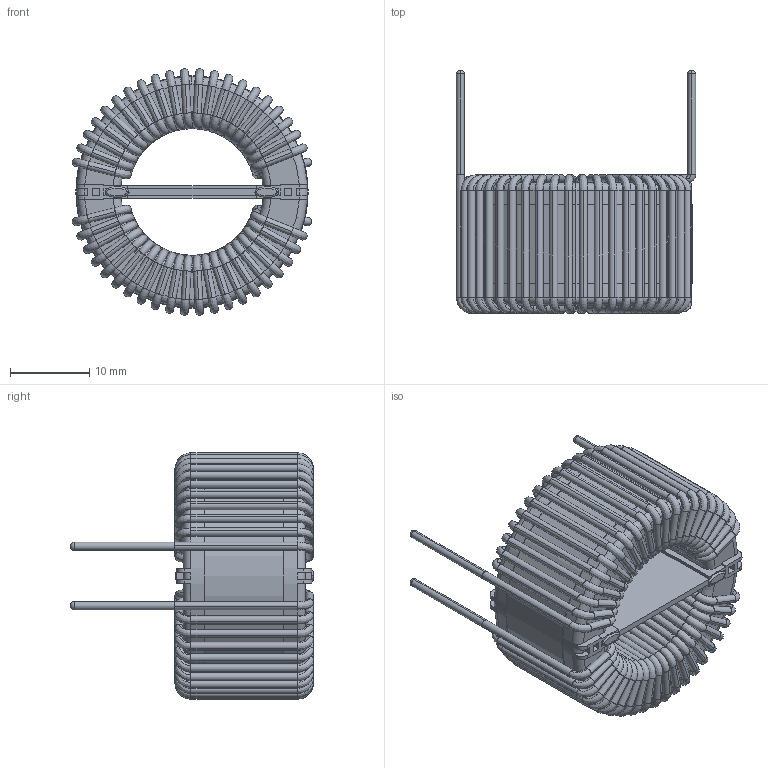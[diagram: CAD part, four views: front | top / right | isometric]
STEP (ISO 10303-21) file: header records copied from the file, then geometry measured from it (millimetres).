
FILE_DESCRIPTION (( 'STEP AP203' ), '1' );
FILE_NAME ('HN-H-273U-7A.STEP', '2020-07-09T10:20:28', ( 'Windows User' ), ( '' ), 'SwSTEP 2.0', 'SolidWorks 2015', '' );
FILE_SCHEMA (( 'CONFIG_CONTROL_DESIGN' ));
Length unit declared in the file: inch
Products named in the file (4): HN-H-273U-7A - FRAME; HN-H-273U-7A; HN-H-273U-7A - COIL; HN-H-273U-7A - CORE
Assembly tree (3 placements, depth 2):
  HN-H-273U-7A
    HN-H-273U-7A - CORE
    HN-H-273U-7A - COIL
    HN-H-273U-7A - FRAME
Bounding box: 30.18 x 30.62 x 31.06 mm (x, y, z)
Volume: 8255.7 mm3; surface area: 11951.5 mm2
Topology: 13 solids, 13 shells, 1157 faces, 3247 edges, 2118 vertices
Faces by surface type: bspline 546, cylinder 359, plane 132, torus 120
Entity records: 66107 total; most frequent: CARTESIAN_POINT 38260, ORIENTED_EDGE 6486, DIRECTION 5341, EDGE_CURVE 3243, AXIS2_PLACEMENT_3D 2285, VERTEX_POINT 2116, CIRCLE 1668, EDGE_LOOP 1161
